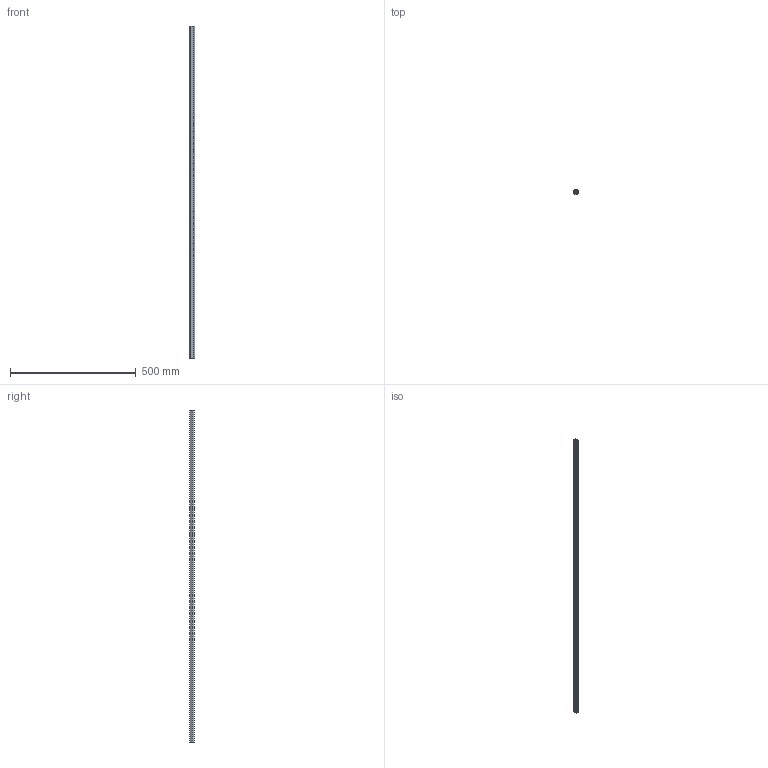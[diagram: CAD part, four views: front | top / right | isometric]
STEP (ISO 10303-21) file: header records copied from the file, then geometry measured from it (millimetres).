
FILE_DESCRIPTION(('FreeCAD Model'),'2;1');
FILE_NAME('Open CASCADE Shape Model','2026-10-09T19:39:44',(''),(''), 'Open CASCADE STEP processor 7.8','FreeCAD','Unknown');
FILE_SCHEMA(('AUTOMOTIVE_DESIGN { 1 0 10303 214 1 1 1 1 }'));
Length unit declared in the file: millimetre
Products named in the file (1): Body
Bounding box: 21.99 x 19.04 x 1320.8 mm (x, y, z)
Volume: 297479 mm3; surface area: 279806.6 mm2
Topology: 1 solids, 1 shells, 27 faces, 75 edges, 50 vertices
Faces by surface type: cylinder 19, plane 8
Full cylindrical faces by diameter (mm): 2.438 x19
Entity records: 985 total; most frequent: DIRECTION 169, CARTESIAN_POINT 153, ORIENTED_EDGE 150, EDGE_CURVE 75, AXIS2_PLACEMENT_3D 66, FACE_BOUND 65, EDGE_LOOP 65, VERTEX_POINT 50
